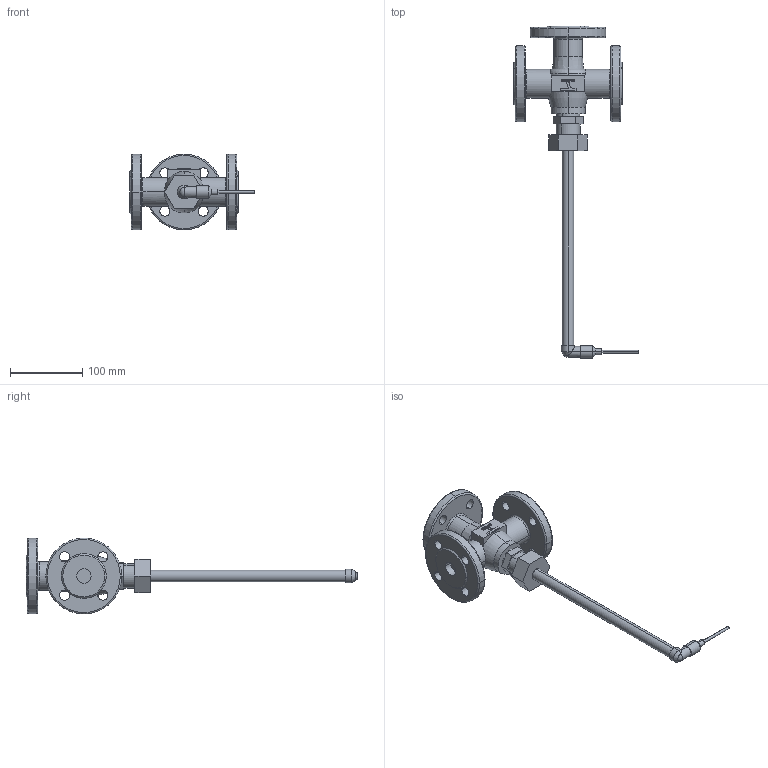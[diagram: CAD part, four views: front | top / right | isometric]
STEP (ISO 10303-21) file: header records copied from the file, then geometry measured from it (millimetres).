
FILE_DESCRIPTION (( 'STEP AP203' ), '1' );
FILE_NAME ('2713_2118_3M_DIN_020_016_EN-JL1040_B1_std_.STEP', '2010-09-14T08:35:06', ( '' ), ( '' ), 'SwSTEP 2.0', 'SolidWorks 2006303', '' );
FILE_SCHEMA (( 'CONFIG_CONTROL_DESIGN' ));
Length unit declared in the file: millimetre
Products named in the file (7): Rohr02_Standard; Thermostat_Typ2233_TL430_d25_Standard; Thermostat_Typ2233_Teil02_ohne Verlängerung_Standard; 2713_2118_3M_DIN_020_016_EN-JL1040_B1_std_; 2713_2118_3M_DIN_020_016_EN-JL1040_B1_std_Standard; Führungsnippel_02302961_02302962_Standard; Gehäuse_2713_3M_DIN_020_016_EN-JL1040_B1_01022270_Standard
Assembly tree (6 placements, depth 3):
  2713_2118_3M_DIN_020_016_EN-JL1040_B1_std_
    2713_2118_3M_DIN_020_016_EN-JL1040_B1_std_Standard
      Führungsnippel_02302961_02302962_Standard
      Gehäuse_2713_3M_DIN_020_016_EN-JL1040_B1_01022270_Standard
    Thermostat_Typ2233_TL430_d25_Standard
      Thermostat_Typ2233_Teil02_ohne Verlängerung_Standard
      Rohr02_Standard
Bounding box: 172 x 459.68 x 105 mm (x, y, z)
Volume: 766477.5 mm3; surface area: 128394.1 mm2
Topology: 4 solids, 4 shells, 276 faces, 719 edges, 466 vertices
Faces by surface type: plane 92, bspline 72, cylinder 70, torus 24, cone 17, sphere 1
Entity records: 12047 total; most frequent: CARTESIAN_POINT 4831, ORIENTED_EDGE 1438, DIRECTION 1206, EDGE_CURVE 719, VERTEX_POINT 466, AXIS2_PLACEMENT_3D 445, VECTOR 316, LINE 316
